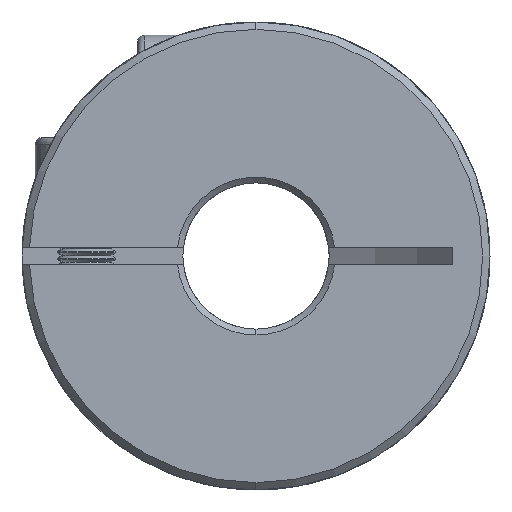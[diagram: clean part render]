
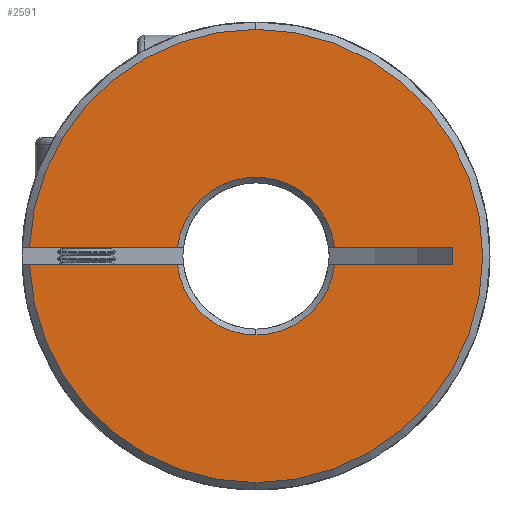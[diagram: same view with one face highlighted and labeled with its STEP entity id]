
A CAD part, front view. The second image highlights one B-rep face of the part: STEP entity #2591.
In plain terms, the highlighted planar face has unit normal (0, -1, 0).
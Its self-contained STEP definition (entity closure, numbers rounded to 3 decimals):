
#108 = DIRECTION ( 'NONE',  ( 1., 0., 0. ) ) ;
#332 = EDGE_CURVE ( 'NONE', #2541, #10995, #6750, .T. ) ;
#347 = VERTEX_POINT ( 'NONE', #8313 ) ;
#490 = CARTESIAN_POINT ( 'NONE',  ( 0., 0., 0. ) ) ;
#598 = CARTESIAN_POINT ( 'NONE',  ( -50., 0., -0.6 ) ) ;
#808 = VECTOR ( 'NONE', #4411, 1000. ) ;
#813 = DIRECTION ( 'NONE',  ( 0., -1., 0. ) ) ;
#894 = CARTESIAN_POINT ( 'NONE',  ( -50., 0., 0.6 ) ) ;
#1121 = CARTESIAN_POINT ( 'NONE',  ( 5.367, 0., -0.6 ) ) ;
#1165 = ORIENTED_EDGE ( 'NONE', *, *, #10450, .T. ) ;
#1171 = CIRCLE ( 'NONE', #4872, 5.4 ) ;
#1330 = CARTESIAN_POINT ( 'NONE',  ( 0., 0., 0. ) ) ;
#1391 = DIRECTION ( 'NONE',  ( 0., -1., 0. ) ) ;
#1466 = DIRECTION ( 'NONE',  ( 0., 0., 1. ) ) ;
#1513 = CARTESIAN_POINT ( 'NONE',  ( 13.436, 0., 0.6 ) ) ;
#1844 = CARTESIAN_POINT ( 'NONE',  ( 13.436, 0., -0.6 ) ) ;
#1879 = DIRECTION ( 'NONE',  ( 1., 0., 0. ) ) ;
#1898 = AXIS2_PLACEMENT_3D ( 'NONE', #4043, #9221, #4831 ) ;
#1910 = CARTESIAN_POINT ( 'NONE',  ( 0., 0., 0. ) ) ;
#2103 = ORIENTED_EDGE ( 'NONE', *, *, #4368, .T. ) ;
#2313 = CARTESIAN_POINT ( 'NONE',  ( 13.436, 0., -0.6 ) ) ;
#2371 = CIRCLE ( 'NONE', #5241, 15.5 ) ;
#2397 = DIRECTION ( 'NONE',  ( 0., 0., 1. ) ) ;
#2541 = VERTEX_POINT ( 'NONE', #10777 ) ;
#2591 = ADVANCED_FACE ( 'NONE', ( #10524 ), #7350, .F. ) ;
#2682 = CARTESIAN_POINT ( 'NONE',  ( 0., 0., -5.4 ) ) ;
#2820 = AXIS2_PLACEMENT_3D ( 'NONE', #490, #1391, #1466 ) ;
#2870 = VERTEX_POINT ( 'NONE', #7801 ) ;
#3362 = ORIENTED_EDGE ( 'NONE', *, *, #4999, .T. ) ;
#3624 = DIRECTION ( 'NONE',  ( 0., 0., 1. ) ) ;
#3955 = VERTEX_POINT ( 'NONE', #6518 ) ;
#3995 = VERTEX_POINT ( 'NONE', #1513 ) ;
#4043 = CARTESIAN_POINT ( 'NONE',  ( -50., 0., -18.413 ) ) ;
#4246 = CARTESIAN_POINT ( 'NONE',  ( 0., 0., 0. ) ) ;
#4368 = EDGE_CURVE ( 'NONE', #4903, #3995, #10167, .T. ) ;
#4411 = DIRECTION ( 'NONE',  ( 0., 0., -1. ) ) ;
#4464 = VECTOR ( 'NONE', #1879, 1000. ) ;
#4750 = CARTESIAN_POINT ( 'NONE',  ( 0., 0., 0. ) ) ;
#4809 = EDGE_LOOP ( 'NONE', ( #5122, #10822, #1165, #7578, #3362, #6404, #2103, #10206, #6210, #6145, #8242 ) ) ;
#4831 = DIRECTION ( 'NONE',  ( 0., 0., 1. ) ) ;
#4872 = AXIS2_PLACEMENT_3D ( 'NONE', #6162, #9783, #8773 ) ;
#4903 = VERTEX_POINT ( 'NONE', #5957 ) ;
#4992 = CIRCLE ( 'NONE', #2820, 15.5 ) ;
#4999 = EDGE_CURVE ( 'NONE', #3955, #347, #9887, .T. ) ;
#5122 = ORIENTED_EDGE ( 'NONE', *, *, #332, .F. ) ;
#5241 = AXIS2_PLACEMENT_3D ( 'NONE', #4246, #813, #5904 ) ;
#5476 = LINE ( 'NONE', #1844, #808 ) ;
#5499 = EDGE_CURVE ( 'NONE', #2870, #3955, #4992, .T. ) ;
#5904 = DIRECTION ( 'NONE',  ( 0., 0., 1. ) ) ;
#5957 = CARTESIAN_POINT ( 'NONE',  ( 5.367, 0., 0.6 ) ) ;
#6019 = CARTESIAN_POINT ( 'NONE',  ( -50., 0., 0.6 ) ) ;
#6086 = VECTOR ( 'NONE', #10432, 1000. ) ;
#6145 = ORIENTED_EDGE ( 'NONE', *, *, #8761, .T. ) ;
#6155 = VERTEX_POINT ( 'NONE', #2313 ) ;
#6162 = CARTESIAN_POINT ( 'NONE',  ( 0., 0., 0. ) ) ;
#6210 = ORIENTED_EDGE ( 'NONE', *, *, #8034, .F. ) ;
#6223 = VERTEX_POINT ( 'NONE', #9476 ) ;
#6404 = ORIENTED_EDGE ( 'NONE', *, *, #7762, .T. ) ;
#6518 = CARTESIAN_POINT ( 'NONE',  ( -15.488, 0., 0.6 ) ) ;
#6727 = AXIS2_PLACEMENT_3D ( 'NONE', #1330, #8198, #10863 ) ;
#6750 = LINE ( 'NONE', #598, #7974 ) ;
#6960 = CIRCLE ( 'NONE', #7895, 15.5 ) ;
#7248 = VECTOR ( 'NONE', #108, 1000. ) ;
#7342 = DIRECTION ( 'NONE',  ( 0., -1., 0. ) ) ;
#7350 = PLANE ( 'NONE',  #1898 ) ;
#7376 = DIRECTION ( 'NONE',  ( 1., 0., 0. ) ) ;
#7578 = ORIENTED_EDGE ( 'NONE', *, *, #5499, .T. ) ;
#7762 = EDGE_CURVE ( 'NONE', #347, #4903, #7934, .T. ) ;
#7801 = CARTESIAN_POINT ( 'NONE',  ( 0., 0., 15.5 ) ) ;
#7895 = AXIS2_PLACEMENT_3D ( 'NONE', #4750, #7342, #2397 ) ;
#7934 = CIRCLE ( 'NONE', #10525, 5.4 ) ;
#7974 = VECTOR ( 'NONE', #7376, 1000. ) ;
#8034 = EDGE_CURVE ( 'NONE', #10114, #6155, #8060, .T. ) ;
#8038 = CIRCLE ( 'NONE', #6727, 5.4 ) ;
#8060 = LINE ( 'NONE', #10332, #7248 ) ;
#8198 = DIRECTION ( 'NONE',  ( 0., 1., 0. ) ) ;
#8231 = EDGE_CURVE ( 'NONE', #2541, #6223, #6960, .T. ) ;
#8242 = ORIENTED_EDGE ( 'NONE', *, *, #10062, .T. ) ;
#8313 = CARTESIAN_POINT ( 'NONE',  ( -5.367, 0., 0.6 ) ) ;
#8332 = CARTESIAN_POINT ( 'NONE',  ( -5.367, 0., -0.6 ) ) ;
#8534 = EDGE_CURVE ( 'NONE', #3995, #6155, #5476, .T. ) ;
#8544 = VERTEX_POINT ( 'NONE', #2682 ) ;
#8761 = EDGE_CURVE ( 'NONE', #10114, #8544, #8038, .T. ) ;
#8773 = DIRECTION ( 'NONE',  ( 0., 0., 1. ) ) ;
#8840 = DIRECTION ( 'NONE',  ( 0., 1., 0. ) ) ;
#9221 = DIRECTION ( 'NONE',  ( 0., 1., 0. ) ) ;
#9476 = CARTESIAN_POINT ( 'NONE',  ( 0., 0., -15.5 ) ) ;
#9783 = DIRECTION ( 'NONE',  ( 0., 1., 0. ) ) ;
#9887 = LINE ( 'NONE', #6019, #4464 ) ;
#10062 = EDGE_CURVE ( 'NONE', #8544, #10995, #1171, .T. ) ;
#10114 = VERTEX_POINT ( 'NONE', #1121 ) ;
#10167 = LINE ( 'NONE', #894, #6086 ) ;
#10206 = ORIENTED_EDGE ( 'NONE', *, *, #8534, .T. ) ;
#10332 = CARTESIAN_POINT ( 'NONE',  ( -50., 0., -0.6 ) ) ;
#10432 = DIRECTION ( 'NONE',  ( 1., 0., 0. ) ) ;
#10450 = EDGE_CURVE ( 'NONE', #6223, #2870, #2371, .T. ) ;
#10524 = FACE_OUTER_BOUND ( 'NONE', #4809, .T. ) ;
#10525 = AXIS2_PLACEMENT_3D ( 'NONE', #1910, #8840, #3624 ) ;
#10777 = CARTESIAN_POINT ( 'NONE',  ( -15.488, 0., -0.6 ) ) ;
#10822 = ORIENTED_EDGE ( 'NONE', *, *, #8231, .T. ) ;
#10863 = DIRECTION ( 'NONE',  ( 0., 0., 1. ) ) ;
#10995 = VERTEX_POINT ( 'NONE', #8332 ) ;
